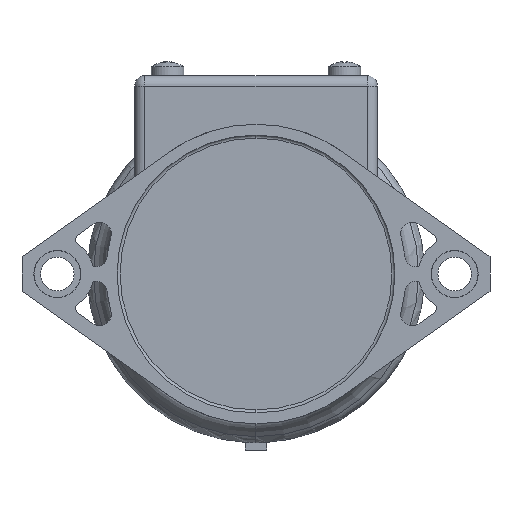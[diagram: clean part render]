
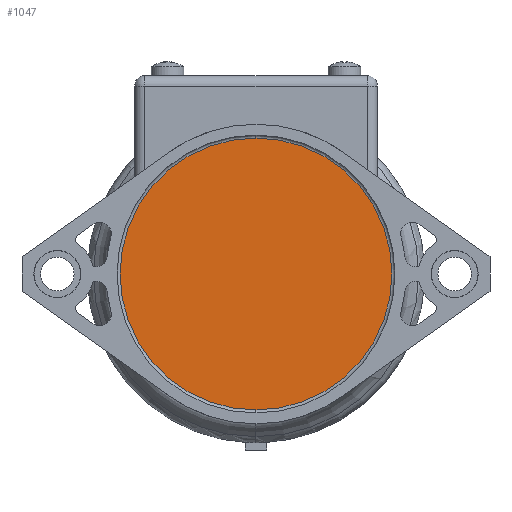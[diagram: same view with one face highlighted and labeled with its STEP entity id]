
A CAD part, front view. The second image highlights one B-rep face of the part: STEP entity #1047.
In plain terms, the highlighted planar face has unit normal (0, -1, 0).
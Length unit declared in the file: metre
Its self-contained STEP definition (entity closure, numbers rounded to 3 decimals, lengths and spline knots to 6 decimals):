
#1047 = ADVANCED_FACE( 'NONE', ( #2727 ), #2728, .T. );
#2727 = FACE_OUTER_BOUND( '', #6035, .T. );
#2728 = PLANE( '', #6036 );
#6035 = EDGE_LOOP( '', ( #12972, #12973 ) );
#6036 = AXIS2_PLACEMENT_3D( '', #12974, #12975, #12976 );
#12972 = ORIENTED_EDGE( '', *, *, #15214, .T. );
#12973 = ORIENTED_EDGE( '', *, *, #15049, .T. );
#12974 = CARTESIAN_POINT( '', ( -0.006742, -0.023474, 0.001916 ) );
#12975 = DIRECTION( '', ( 0., -1., 0. ) );
#12976 = DIRECTION( '', ( 0., 0., -1. ) );
#15049 = EDGE_CURVE( 'NONE', #18624, #18628, #18630, .T. );
#15214 = EDGE_CURVE( 'NONE', #18628, #18624, #18913, .T. );
#18624 = VERTEX_POINT( 'NONE', #25382 );
#18628 = VERTEX_POINT( 'NONE', #25386 );
#18630 = CIRCLE( '', #25388, 0.02344 );
#18913 = CIRCLE( '', #25813, 0.02344 );
#25382 = CARTESIAN_POINT( '', ( -0.006742, -0.023474, 0.025356 ) );
#25386 = CARTESIAN_POINT( '', ( -0.006742, -0.023474, -0.021524 ) );
#25388 = AXIS2_PLACEMENT_3D( '', #29225, #29226, #29227 );
#25813 = AXIS2_PLACEMENT_3D( '', #29529, #29530, #29531 );
#29225 = CARTESIAN_POINT( '', ( -0.006742, -0.023474, 0.001916 ) );
#29226 = DIRECTION( '', ( 0., -1., 0. ) );
#29227 = DIRECTION( '', ( 0., 0., 1. ) );
#29529 = CARTESIAN_POINT( '', ( -0.006742, -0.023474, 0.001916 ) );
#29530 = DIRECTION( '', ( 0., -1., 0. ) );
#29531 = DIRECTION( '', ( 0., 0., -1. ) );
